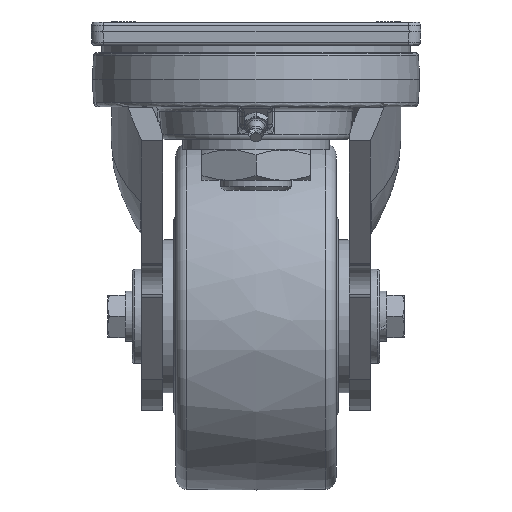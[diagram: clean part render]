
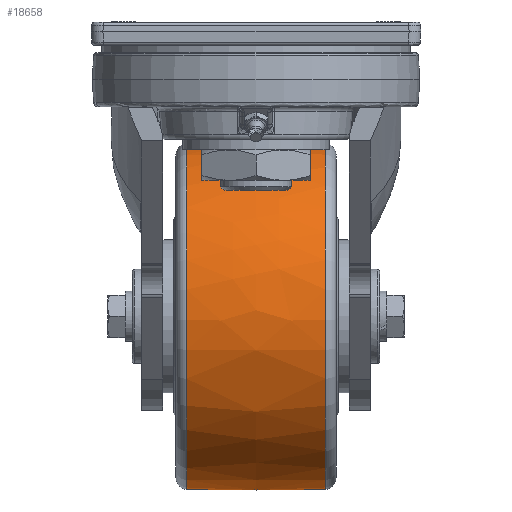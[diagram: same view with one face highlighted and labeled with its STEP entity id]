
A CAD part, left-side view. The second image highlights one B-rep face of the part: STEP entity #18658.
In plain terms, the highlighted free-form (B-spline) face has degree [2, 2] with [3, 9] control points.
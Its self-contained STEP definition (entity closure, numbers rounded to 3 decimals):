
#16=(
BOUNDED_SURFACE()
B_SPLINE_SURFACE(2,2,((#33247,#33248,#33249,#33250,#33251,#33252,#33253,
#33254,#33255),(#33256,#33257,#33258,#33259,#33260,#33261,#33262,#33263,
#33264),(#33265,#33266,#33267,#33268,#33269,#33270,#33271,#33272,#33273)),
 .UNSPECIFIED.,.F.,.T.,.F.)
B_SPLINE_SURFACE_WITH_KNOTS((3,3),(3,2,2,2,3),(-0.098,0.098),
(-3.142,-1.571,0.,1.571,3.142),
 .UNSPECIFIED.)
GEOMETRIC_REPRESENTATION_ITEM()
RATIONAL_B_SPLINE_SURFACE(((1.,0.707,1.,0.707,1.,
0.707,1.,0.707,1.),(0.995,0.704,
0.995,0.704,0.995,0.704,
0.995,0.704,0.995),(1.,0.707,
1.,0.707,1.,0.707,1.,0.707,1.)))
REPRESENTATION_ITEM('')
SURFACE()
);
#1600=CIRCLE('',#19696,73.547);
#1601=CIRCLE('',#19697,73.547);
#1602=CIRCLE('',#19698,73.547);
#1603=CIRCLE('',#19699,300.);
#1604=CIRCLE('',#19700,73.547);
#1605=CIRCLE('',#19701,73.547);
#1606=CIRCLE('',#19702,73.547);
#2771=FACE_OUTER_BOUND('',#3879,.T.);
#3879=EDGE_LOOP('',(#17055,#17056,#17057,#17058,#17059,#17060,#17061,#17062));
#8892=VERTEX_POINT('',#33240);
#8893=VERTEX_POINT('',#33242);
#8894=VERTEX_POINT('',#33244);
#8895=VERTEX_POINT('',#33274);
#8896=VERTEX_POINT('',#33276);
#8897=VERTEX_POINT('',#33278);
#11630=EDGE_CURVE('',#8892,#8893,#1600,.T.);
#11631=EDGE_CURVE('',#8893,#8894,#1601,.T.);
#11632=EDGE_CURVE('',#8894,#8892,#1602,.T.);
#11633=EDGE_CURVE('',#8892,#8895,#1603,.T.);
#11634=EDGE_CURVE('',#8895,#8896,#1604,.T.);
#11635=EDGE_CURVE('',#8896,#8897,#1605,.T.);
#11636=EDGE_CURVE('',#8897,#8895,#1606,.T.);
#17055=ORIENTED_EDGE('',*,*,#11631,.F.);
#17056=ORIENTED_EDGE('',*,*,#11630,.F.);
#17057=ORIENTED_EDGE('',*,*,#11633,.T.);
#17058=ORIENTED_EDGE('',*,*,#11634,.T.);
#17059=ORIENTED_EDGE('',*,*,#11635,.T.);
#17060=ORIENTED_EDGE('',*,*,#11636,.T.);
#17061=ORIENTED_EDGE('',*,*,#11633,.F.);
#17062=ORIENTED_EDGE('',*,*,#11632,.F.);
#18658=ADVANCED_FACE('',(#2771),#16,.F.);
#19696=AXIS2_PLACEMENT_3D('',#33243,#23329,#23330);
#19697=AXIS2_PLACEMENT_3D('',#33245,#23331,#23332);
#19698=AXIS2_PLACEMENT_3D('',#33246,#23333,#23334);
#19699=AXIS2_PLACEMENT_3D('',#33275,#23335,#23336);
#19700=AXIS2_PLACEMENT_3D('',#33277,#23337,#23338);
#19701=AXIS2_PLACEMENT_3D('',#33279,#23339,#23340);
#19702=AXIS2_PLACEMENT_3D('',#33280,#23341,#23342);
#23329=DIRECTION('center_axis',(0.,1.,0.));
#23330=DIRECTION('ref_axis',(0.192,0.,-0.981));
#23331=DIRECTION('center_axis',(0.,1.,0.));
#23332=DIRECTION('ref_axis',(0.192,0.,-0.981));
#23333=DIRECTION('center_axis',(0.,1.,0.));
#23334=DIRECTION('ref_axis',(0.192,0.,-0.981));
#23335=DIRECTION('center_axis',(0.981,0.,
0.192));
#23336=DIRECTION('ref_axis',(-0.192,0.,0.981));
#23337=DIRECTION('center_axis',(0.,1.,0.));
#23338=DIRECTION('ref_axis',(0.192,0.,-0.981));
#23339=DIRECTION('center_axis',(0.,1.,0.));
#23340=DIRECTION('ref_axis',(0.192,0.,-0.981));
#23341=DIRECTION('center_axis',(0.,1.,0.));
#23342=DIRECTION('ref_axis',(0.192,0.,-0.981));
#33240=CARTESIAN_POINT('',(65.851,29.492,-39.827));
#33242=CARTESIAN_POINT('',(152.173,29.492,-97.851));
#33243=CARTESIAN_POINT('Origin',(80.,29.492,-112.));
#33244=CARTESIAN_POINT('',(7.827,29.492,-126.149));
#33245=CARTESIAN_POINT('Origin',(80.,29.492,-112.));
#33246=CARTESIAN_POINT('Origin',(80.,29.492,-112.));
#33247=CARTESIAN_POINT('Ctrl Pts',(65.851,-29.492,-39.827));
#33248=CARTESIAN_POINT('Ctrl Pts',(138.024,-29.492,-25.678));
#33249=CARTESIAN_POINT('Ctrl Pts',(152.173,-29.492,-97.851));
#33250=CARTESIAN_POINT('Ctrl Pts',(166.322,-29.492,-170.024));
#33251=CARTESIAN_POINT('Ctrl Pts',(94.149,-29.492,-184.173));
#33252=CARTESIAN_POINT('Ctrl Pts',(21.976,-29.492,-198.322));
#33253=CARTESIAN_POINT('Ctrl Pts',(7.827,-29.492,-126.149));
#33254=CARTESIAN_POINT('Ctrl Pts',(-6.322,-29.492,
-53.976));
#33255=CARTESIAN_POINT('Ctrl Pts',(65.851,-29.492,-39.827));
#33256=CARTESIAN_POINT('Ctrl Pts',(65.29,0.,
-36.968));
#33257=CARTESIAN_POINT('Ctrl Pts',(140.322,0.,
-22.259));
#33258=CARTESIAN_POINT('Ctrl Pts',(155.032,0.,
-97.291));
#33259=CARTESIAN_POINT('Ctrl Pts',(169.742,0.,
-172.322));
#33260=CARTESIAN_POINT('Ctrl Pts',(94.71,0.,
-187.032));
#33261=CARTESIAN_POINT('Ctrl Pts',(19.678,0.,
-201.742));
#33262=CARTESIAN_POINT('Ctrl Pts',(4.968,0.,
-126.71));
#33263=CARTESIAN_POINT('Ctrl Pts',(-9.742,0.,
-51.678));
#33264=CARTESIAN_POINT('Ctrl Pts',(65.29,0.,
-36.968));
#33265=CARTESIAN_POINT('Ctrl Pts',(65.851,29.492,-39.827));
#33266=CARTESIAN_POINT('Ctrl Pts',(138.024,29.492,-25.678));
#33267=CARTESIAN_POINT('Ctrl Pts',(152.173,29.492,-97.851));
#33268=CARTESIAN_POINT('Ctrl Pts',(166.322,29.492,-170.024));
#33269=CARTESIAN_POINT('Ctrl Pts',(94.149,29.492,-184.173));
#33270=CARTESIAN_POINT('Ctrl Pts',(21.976,29.492,-198.322));
#33271=CARTESIAN_POINT('Ctrl Pts',(7.827,29.492,-126.149));
#33272=CARTESIAN_POINT('Ctrl Pts',(-6.322,29.492,-53.976));
#33273=CARTESIAN_POINT('Ctrl Pts',(65.851,29.492,-39.827));
#33274=CARTESIAN_POINT('',(65.851,-29.492,-39.827));
#33275=CARTESIAN_POINT('Origin',(123.286,0.,
-332.797));
#33276=CARTESIAN_POINT('',(152.173,-29.492,-97.851));
#33277=CARTESIAN_POINT('Origin',(80.,-29.492,-112.));
#33278=CARTESIAN_POINT('',(7.827,-29.492,-126.149));
#33279=CARTESIAN_POINT('Origin',(80.,-29.492,-112.));
#33280=CARTESIAN_POINT('Origin',(80.,-29.492,-112.));
